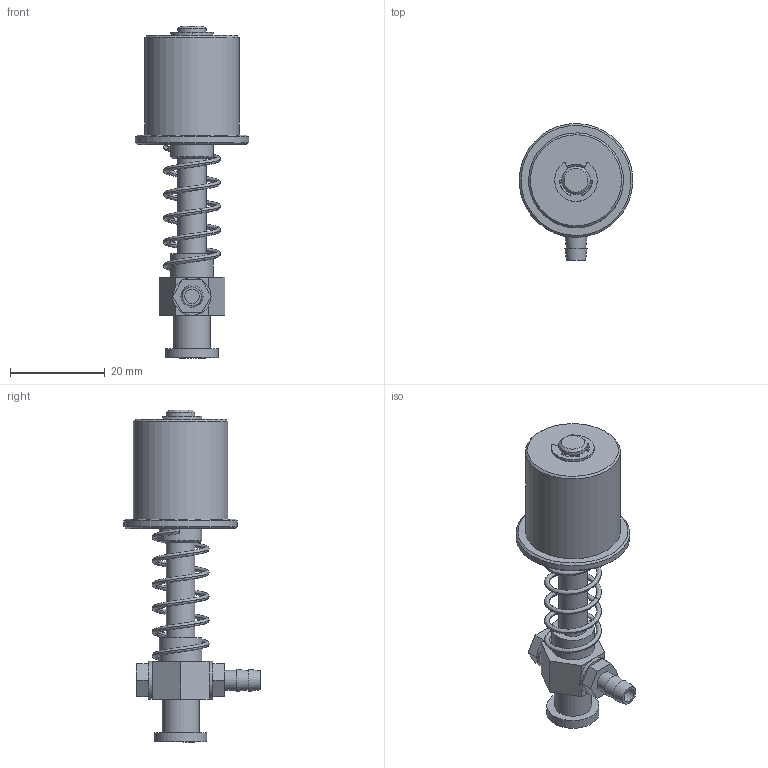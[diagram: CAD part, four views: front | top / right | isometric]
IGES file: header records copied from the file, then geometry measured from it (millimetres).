
Start section: SolidWorks IGES file using analytic representation for surfaces
Global section: file name: C:\Users\STAR079\Desktop\211011\ネット記載用\211011.IGS; native system: SolidWorks 2013; preprocessor: SolidWorks 2013; author: STAR079; date: 140908.181716; units: millimetre
Bounding box: 23.98 x 28.79 x 70 mm (x, y, z)
Surface area: 5675.1 mm2 (no closed solid volume)
Topology: 0 solids, 0 shells, 84 faces, 335 edges, 294 vertices
Faces by surface type: bspline 51, revolution 33
